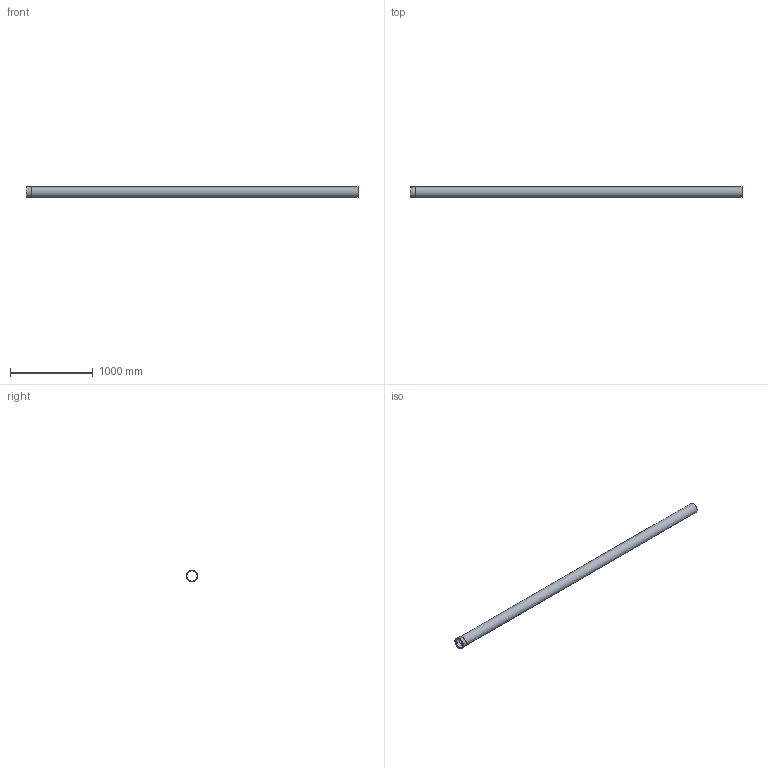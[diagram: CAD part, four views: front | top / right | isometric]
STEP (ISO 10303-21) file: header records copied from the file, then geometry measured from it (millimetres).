
FILE_DESCRIPTION((''),'2;1');
FILE_NAME('I:\WATTS\3D_CAD\3D_CAD_Models\Blucher_Drains\P_StraightPipe\WebsiteFiles\3D\STEP\P5-13.1-316.stp','2009-12-02T15:17:45',('menesek'),(''),'Autodesk Inventor 2010','Autodesk Inventor 2010','');
FILE_SCHEMA(('AUTOMOTIVE_DESIGN { 1 0 10303 214 1 1 1 1 }'));
Length unit declared in the file: inch
Products named in the file (1): P5-13.1-316
Bounding box: 4000 x 139.95 x 139.95 mm (x, y, z)
Volume: 1614014 mm3; surface area: 3122879 mm2
Topology: 1 solids, 1 shells, 109 faces, 285 edges, 190 vertices
Faces by surface type: plane 59, bspline 34, cylinder 16
Full cylindrical faces by diameter (mm): 122.936 x1, 124.968 x1, 125.984 x2, 139.954 x1
Entity records: 13939 total; most frequent: CARTESIAN_POINT 11561, ORIENTED_EDGE 548, DIRECTION 356, EDGE_CURVE 274, VERTEX_POINT 186, EDGE_LOOP 128, AXIS2_PLACEMENT_3D 120, VECTOR 116
